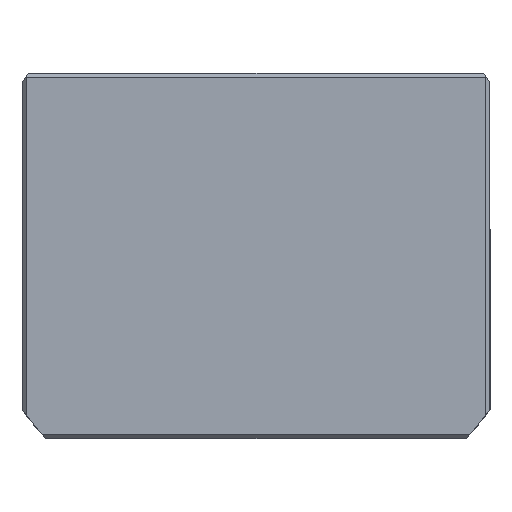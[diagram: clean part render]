
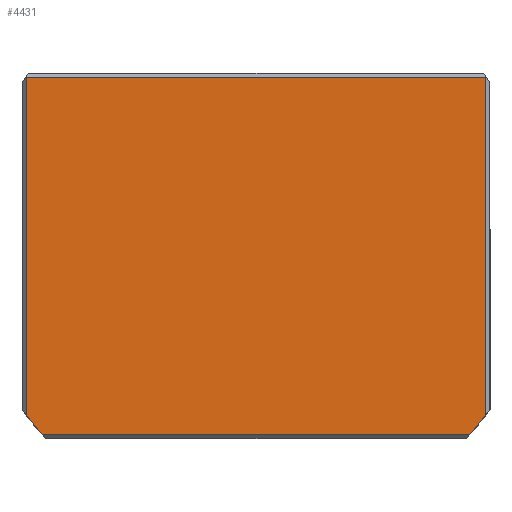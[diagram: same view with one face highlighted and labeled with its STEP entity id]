
A CAD part, top view. The second image highlights one B-rep face of the part: STEP entity #4431.
In plain terms, the highlighted planar face has unit normal (0, 0, 1) as drawn and (0, 0, -1) by its records, which use the part's own axes.
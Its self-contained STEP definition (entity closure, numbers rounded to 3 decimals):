
#201 = DIRECTION ( 'NONE',  ( 0., 0., 1. ) ) ;
#337 = ORIENTED_EDGE ( 'NONE', *, *, #4629, .F. ) ;
#376 = EDGE_CURVE ( 'NONE', #10406, #9371, #8150, .T. ) ;
#674 = ORIENTED_EDGE ( 'NONE', *, *, #12144, .T. ) ;
#1139 = DIRECTION ( 'NONE',  ( 1., 0., 0. ) ) ;
#1163 = ORIENTED_EDGE ( 'NONE', *, *, #11538, .T. ) ;
#2892 = DIRECTION ( 'NONE',  ( 0., -1., 0. ) ) ;
#3369 = EDGE_LOOP ( 'NONE', ( #5186, #11170, #1163, #15632, #337, #674 ) ) ;
#4431 = ADVANCED_FACE ( 'NONE', ( #14113 ), #7385, .F. ) ;
#4629 = EDGE_CURVE ( 'NONE', #16730, #7325, #16601, .T. ) ;
#4800 = CARTESIAN_POINT ( 'NONE',  ( -52.098, 43.5, 0. ) ) ;
#5162 = CARTESIAN_POINT ( 'NONE',  ( -56., 0., 0. ) ) ;
#5186 = ORIENTED_EDGE ( 'NONE', *, *, #376, .F. ) ;
#6011 = CARTESIAN_POINT ( 'NONE',  ( -56., -43.5, 0. ) ) ;
#6058 = EDGE_CURVE ( 'NONE', #10406, #16074, #10703, .T. ) ;
#6691 = DIRECTION ( 'NONE',  ( -1., 0., 0. ) ) ;
#6849 = VECTOR ( 'NONE', #2892, 1000. ) ;
#7325 = VERTEX_POINT ( 'NONE', #12340 ) ;
#7332 = CARTESIAN_POINT ( 'NONE',  ( 0., 0., 0. ) ) ;
#7385 = PLANE ( 'NONE',  #11018 ) ;
#7755 = DIRECTION ( 'NONE',  ( 0., 0., 1. ) ) ;
#8150 = CIRCLE ( 'NONE', #15233, 69.5 ) ;
#8305 = CARTESIAN_POINT ( 'NONE',  ( 56., 38.661, 0. ) ) ;
#8350 = LINE ( 'NONE', #18425, #16069 ) ;
#8749 = CARTESIAN_POINT ( 'NONE',  ( 0., -2.5, 0. ) ) ;
#9211 = VECTOR ( 'NONE', #9464, 1000. ) ;
#9371 = VERTEX_POINT ( 'NONE', #9573 ) ;
#9464 = DIRECTION ( 'NONE',  ( 0., 1., 0. ) ) ;
#9573 = CARTESIAN_POINT ( 'NONE',  ( 52.098, 43.5, 0. ) ) ;
#10077 = AXIS2_PLACEMENT_3D ( 'NONE', #16428, #7755, #17864 ) ;
#10301 = DIRECTION ( 'NONE',  ( 1., 0., 0. ) ) ;
#10406 = VERTEX_POINT ( 'NONE', #8305 ) ;
#10703 = LINE ( 'NONE', #11561, #6849 ) ;
#10821 = DIRECTION ( 'NONE',  ( 1., 0., 0. ) ) ;
#11018 = AXIS2_PLACEMENT_3D ( 'NONE', #7332, #201, #10301 ) ;
#11170 = ORIENTED_EDGE ( 'NONE', *, *, #6058, .T. ) ;
#11395 = CARTESIAN_POINT ( 'NONE',  ( 56., -43.5, 0. ) ) ;
#11538 = EDGE_CURVE ( 'NONE', #16074, #13776, #14926, .T. ) ;
#11561 = CARTESIAN_POINT ( 'NONE',  ( 56., 0., 0. ) ) ;
#12144 = EDGE_CURVE ( 'NONE', #16730, #9371, #8350, .T. ) ;
#12340 = CARTESIAN_POINT ( 'NONE',  ( -56., 38.661, 0. ) ) ;
#12644 = DIRECTION ( 'NONE',  ( 0., 0., 1. ) ) ;
#13776 = VERTEX_POINT ( 'NONE', #6011 ) ;
#14113 = FACE_OUTER_BOUND ( 'NONE', #3369, .T. ) ;
#14615 = CARTESIAN_POINT ( 'NONE',  ( 0., -43.5, 0. ) ) ;
#14926 = LINE ( 'NONE', #14615, #18295 ) ;
#15233 = AXIS2_PLACEMENT_3D ( 'NONE', #8749, #12644, #10821 ) ;
#15632 = ORIENTED_EDGE ( 'NONE', *, *, #16977, .T. ) ;
#16069 = VECTOR ( 'NONE', #1139, 1000. ) ;
#16074 = VERTEX_POINT ( 'NONE', #11395 ) ;
#16428 = CARTESIAN_POINT ( 'NONE',  ( 0., -2.5, 0. ) ) ;
#16601 = CIRCLE ( 'NONE', #10077, 69.5 ) ;
#16730 = VERTEX_POINT ( 'NONE', #4800 ) ;
#16977 = EDGE_CURVE ( 'NONE', #13776, #7325, #17376, .T. ) ;
#17376 = LINE ( 'NONE', #5162, #9211 ) ;
#17864 = DIRECTION ( 'NONE',  ( 1., 0., 0. ) ) ;
#18295 = VECTOR ( 'NONE', #6691, 1000. ) ;
#18425 = CARTESIAN_POINT ( 'NONE',  ( 0., 43.5, 0. ) ) ;
